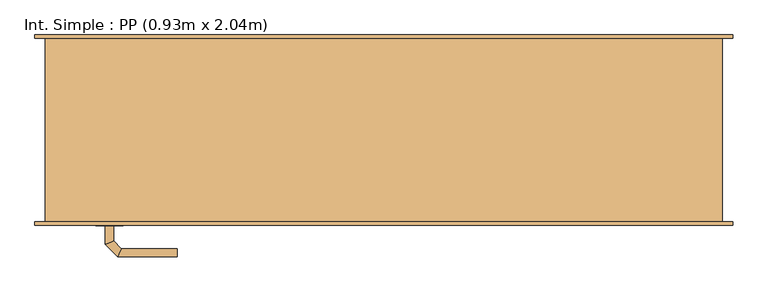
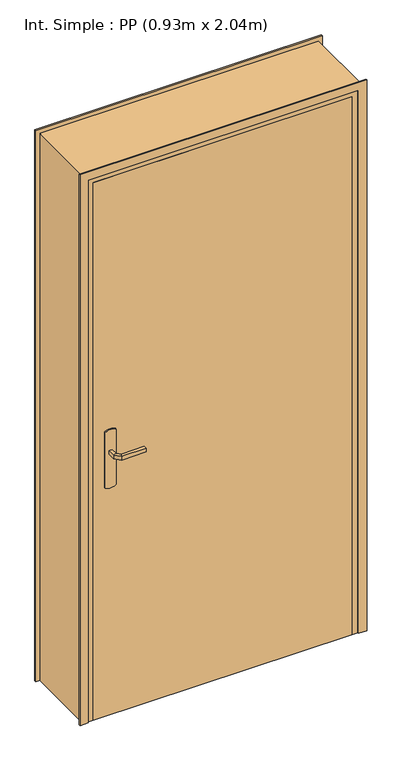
"""IFC4 building model written with IfcOpenShell, lengths in millimetres: door geometry, Int. Simple : PP (0.93m x 2.04m)."""

from ifc_helpers import new_model, si_unit, point, frame, frame_2d, origin, origin_with_axes, place, context, project, spatial, polyline, circle_curve, ellipse_curve, trimmed, segment, composite_curve, outline, extrude, faceted_brep, source, transform, mapped, element, save
from ifc_brep_helpers import plane_surface, cylinder_surface, advanced_brep


def int_simple_pp_0_93m_x_2_04m_1153bdb4(model_context):
    return source(origin(), model_context, "Body", "SolidModel", [
        extrude(outline(composite_curve([segment(trimmed(circle_curve(frame_2d((904.6410162, -440.0)), 40.0), [point((870.0, -460.0))], [point((870.0, -420.0))], False, "CARTESIAN"), True, "CONTINUOUS"), segment(polyline([(870.0, -420.0), (1080.0, -420.0)]), True, "CONTINUOUS"), segment(trimmed(circle_curve(frame_2d((1045.3589838, -440.0)), 40.0), [point((1080.0, -420.0))], [point((1080.0, -460.0))], False, "CARTESIAN"), True, "CONTINUOUS"), segment(polyline([(1080.0, -460.0), (870.0, -460.0)]), True, "CONTINUOUS")], self_intersect=False)), frame((0.0, -140.5, 0.0), z_axis=(0.0, 1.0, 0.0), x_axis=(0.0, 0.0, 1.0)), (0.0, 0.0, 1.0), 5.0),
        extrude(outline(composite_curve([segment(trimmed(circle_curve(frame_2d((1045.3589838, -440.0)), 40.0), [point((1080.0, -420.0))], [point((1080.0, -460.0))], False, "CARTESIAN"), True, "CONTINUOUS"), segment(polyline([(1080.0, -460.0), (870.0, -460.0)]), True, "CONTINUOUS"), segment(trimmed(circle_curve(frame_2d((904.6410162, -440.0)), 40.0), [point((870.0, -460.0))], [point((870.0, -420.0))], False, "CARTESIAN"), True, "CONTINUOUS"), segment(polyline([(870.0, -420.0), (1080.0, -420.0)]), True, "CONTINUOUS")], self_intersect=False)), frame((0.0, -95.5, 0.0), z_axis=(0.0, 1.0, 0.0), x_axis=(0.0, 0.0, 1.0)), (0.0, 0.0, 1.0), 5.0),
        advanced_brep(
        [(-446.0, -140.5, 1007.0), (-434.0, -140.5, 1007.0), (-434.0, -140.5, 993.0), (-446.0, -140.5, 993.0), (-446.0, -168.1509507, 1007.0), (-434.0, -163.180388, 1007.0), (-434.0, -163.180388, 993.0), (-446.0, -168.1509507, 993.0), (-427.62279, -186.5281607, 1007.0), (-422.6522273, -174.5281607, 1007.0), (-422.6522273, -174.5281607, 993.0), (-427.62279, -186.5281607, 993.0), (-339.9813594, -186.5281607, 1007.0), (-339.9813594, -186.5281607, 993.0), (-339.9813594, -174.5281607, 993.0), (-339.9813594, -174.5281607, 1007.0)],
        [
            (0, 1, circle_curve(frame((-440.0, -140.5, 986.9542278), z_axis=(0.0, 1.0, 0.0), x_axis=(1.0, 0.0, 0.0)), 20.9244589)),
            (1, 2),
            (2, 3, circle_curve(frame((-440.0, -140.5, 1013.0457722), z_axis=(0.0, 1.0, 0.0), x_axis=(1.0, 0.0, 0.0)), 20.9244589)),
            (3, 0),
            (0, 4),
            (4, 5, ellipse_curve(frame((-440.0, -165.6656693, 986.9542278), z_axis=(-0.3826834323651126, 0.9238795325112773, 0.0), x_axis=(0.9238795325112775, 0.38268343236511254, 0.0)), 22.6484711, 20.9244589)),
            (5, 1),
            (5, 6),
            (6, 2),
            (6, 7, ellipse_curve(frame((-440.0, -165.6656693, 1013.0457722), z_axis=(-0.3826834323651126, 0.9238795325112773, 0.0), x_axis=(0.9238795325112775, 0.38268343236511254, 0.0)), 22.6484711, 20.9244589)),
            (7, 3),
            (7, 4),
            (4, 8),
            (8, 9, ellipse_curve(frame((-425.1375086, -180.5281607, 986.9542278), z_axis=(-0.9238795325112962, 0.38268343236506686, 0.0), x_axis=(0.3826834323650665, 0.9238795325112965, 0.0)), 22.6484711, 20.9244589)),
            (9, 5),
            (9, 10),
            (10, 6),
            (10, 11, ellipse_curve(frame((-425.1375086, -180.5281607, 1013.0457722), z_axis=(-0.9238795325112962, 0.38268343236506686, 0.0), x_axis=(0.3826834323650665, 0.9238795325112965, 0.0)), 22.6484711, 20.9244589)),
            (11, 7),
            (11, 8),
            (12, 13),
            (13, 14, circle_curve(frame((-339.9813594, -180.5281607, 1013.0457722), z_axis=(1.0, 0.0, 0.0), x_axis=(0.0, 1.0, 0.0)), 20.9244589)),
            (14, 15),
            (15, 12, circle_curve(frame((-339.9813594, -180.5281607, 986.9542278), z_axis=(1.0, 0.0, 0.0), x_axis=(0.0, 1.0, 0.0)), 20.9244589)),
            (8, 12),
            (15, 9),
            (14, 10),
            (13, 11),
        ],
        [
            plane_surface(frame((-449.2195445, -140.5, 1000.0), z_axis=(0.0, 1.0, 0.0), x_axis=(0.0, 0.0, -1.0))),
            cylinder_surface(frame((-440.0, -140.5, 986.9542278), z_axis=(0.0, 1.0, 0.0), x_axis=(1.0, 0.0, 0.0)), 20.9244589),
            plane_surface(frame((-434.0, -140.5, 1007.0), z_axis=(1.0, 0.0, 0.0), x_axis=(0.0, -1.0, 0.0))),
            cylinder_surface(frame((-440.0, -140.5, 1013.0457722), z_axis=(0.0, 1.0, 0.0), x_axis=(1.0, 0.0, 0.0)), 20.9244589),
            plane_surface(frame((-446.0, -140.5, 993.0), z_axis=(-1.0, 0.0, 0.0), x_axis=(0.0, -1.0, 0.0))),
            cylinder_surface(frame((-440.0, -165.6656693, 986.9542278), z_axis=(-0.7071067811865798, 0.7071067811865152, 0.0), x_axis=(0.7071067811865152, 0.7071067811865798, 0.0)), 20.9244589),
            plane_surface(frame((-434.0, -163.180388, 1007.0), z_axis=(0.7071067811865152, 0.7071067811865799, 0.0), x_axis=(0.7071067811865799, -0.7071067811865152, 0.0))),
            cylinder_surface(frame((-440.0, -165.6656693, 1013.0457722), z_axis=(-0.7071067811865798, 0.7071067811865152, 0.0), x_axis=(0.7071067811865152, 0.7071067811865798, 0.0)), 20.9244589),
            plane_surface(frame((-446.0, -168.1509507, 993.0), z_axis=(-0.7071067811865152, -0.7071067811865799, 0.0), x_axis=(0.7071067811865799, -0.7071067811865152, 0.0))),
            plane_surface(frame((-339.9813594, -180.5281607, 990.7804555), z_axis=(1.0, 0.0, 0.0), x_axis=(0.0, 1.0, 0.0))),
            cylinder_surface(frame((-425.1375086, -180.5281607, 986.9542278), z_axis=(-1.0, 0.0, 0.0), x_axis=(0.0, 1.0, 0.0)), 20.9244589),
            plane_surface(frame((-422.6522273, -174.5281607, 1007.0), z_axis=(0.0, 1.0, 0.0), x_axis=(1.0, 0.0, 0.0))),
            cylinder_surface(frame((-425.1375086, -180.5281607, 1013.0457722), z_axis=(-1.0, 0.0, 0.0), x_axis=(0.0, 1.0, 0.0)), 20.9244589),
            plane_surface(frame((-427.62279, -186.5281607, 993.0), z_axis=(0.0, -1.0, 0.0), x_axis=(1.0, 0.0, 0.0))),
        ],
        [
            (0, [[1, 2, 3, 4]]),
            (1, [[-1, 5, 6, 7]]),
            (2, [[-2, -7, 8, 9]]),
            (3, [[-3, -9, 10, 11]]),
            (4, [[-4, -11, 12, -5]]),
            (5, [[-6, 13, 14, 15]]),
            (6, [[-8, -15, 16, 17]]),
            (7, [[-10, -17, 18, 19]]),
            (8, [[-12, -19, 20, -13]]),
            (9, [[21, 22, 23, 24]]),
            (10, [[-14, 25, -24, 26]]),
            (11, [[-16, -26, -23, 27]]),
            (12, [[-18, -27, -22, 28]]),
            (13, [[-20, -28, -21, -25]]),
        ],
    ),
        advanced_brep(
        [(-434.0, -90.5, 993.0), (-434.0, -90.5, 1007.0), (-446.0, -90.5, 1007.0), (-446.0, -90.5, 993.0), (-434.0, -68.0147955, 993.0), (-434.0, -68.0147955, 1007.0), (-446.0, -63.0442327, 1007.0), (-446.0, -63.0442327, 993.0), (-422.5147186, -56.5295141, 993.0), (-422.5147186, -56.5295141, 1007.0), (-427.4852814, -44.5295141, 1007.0), (-427.4852814, -44.5295141, 993.0), (-339.9542163, -56.5295141, 993.0), (-339.9542163, -44.5295141, 993.0), (-339.9542163, -44.5295141, 1007.0), (-339.9542163, -56.5295141, 1007.0)],
        [
            (0, 1),
            (1, 2, circle_curve(frame((-440.0, -90.5, 986.9542278), z_axis=(0.0, -1.0, 0.0), x_axis=(-1.0, 0.0, 0.0)), 20.9244589)),
            (2, 3),
            (3, 0, circle_curve(frame((-440.0, -90.5, 1013.0457722), z_axis=(0.0, -1.0, 0.0), x_axis=(-1.0, 0.0, 0.0)), 20.9244589)),
            (0, 4),
            (4, 5),
            (5, 1),
            (5, 6, ellipse_curve(frame((-440.0, -65.5295141, 986.9542278), z_axis=(-0.3826834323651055, -0.9238795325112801, 0.0), x_axis=(0.9238795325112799, -0.3826834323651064, 0.0)), 22.6484711, 20.9244589)),
            (6, 2),
            (6, 7),
            (7, 3),
            (7, 4, ellipse_curve(frame((-440.0, -65.5295141, 1013.0457722), z_axis=(-0.3826834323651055, -0.9238795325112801, 0.0), x_axis=(0.9238795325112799, -0.3826834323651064, 0.0)), 22.6484711, 20.9244589)),
            (4, 8),
            (8, 9),
            (9, 5),
            (9, 10, ellipse_curve(frame((-425.0, -50.5295141, 986.9542278), z_axis=(-0.9238795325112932, -0.382683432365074, 0.0), x_axis=(0.3826834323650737, -0.9238795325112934, 0.0)), 22.6484711, 20.9244589)),
            (10, 6),
            (10, 11),
            (11, 7),
            (11, 8, ellipse_curve(frame((-425.0, -50.5295141, 1013.0457722), z_axis=(-0.9238795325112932, -0.382683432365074, 0.0), x_axis=(0.3826834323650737, -0.9238795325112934, 0.0)), 22.6484711, 20.9244589)),
            (12, 13, circle_curve(frame((-339.9542163, -50.5295141, 1013.0457722), z_axis=(1.0, 0.0, 0.0), x_axis=(0.0, 1.0, 0.0)), 20.9244589)),
            (13, 14),
            (14, 15, circle_curve(frame((-339.9542163, -50.5295141, 986.9542278), z_axis=(1.0, 0.0, 0.0), x_axis=(0.0, 1.0, 0.0)), 20.9244589)),
            (15, 12),
            (8, 12),
            (15, 9),
            (14, 10),
            (13, 11),
        ],
        [
            plane_surface(frame((-449.2195445, -90.5, 1000.0), z_axis=(0.0, -1.0, 0.0), x_axis=(0.0, 0.0, 1.0))),
            plane_surface(frame((-434.0, -90.5, 993.0), z_axis=(1.0, 0.0, 0.0), x_axis=(0.0, 1.0, 0.0))),
            cylinder_surface(frame((-440.0, -90.5, 986.9542278), z_axis=(0.0, -1.0, 0.0), x_axis=(-1.0, 0.0, 0.0)), 20.9244589),
            plane_surface(frame((-446.0, -90.5, 1007.0), z_axis=(-1.0, 0.0, 0.0), x_axis=(0.0, 1.0, 0.0))),
            cylinder_surface(frame((-440.0, -90.5, 1013.0457722), z_axis=(0.0, -1.0, 0.0), x_axis=(-1.0, 0.0, 0.0)), 20.9244589),
            plane_surface(frame((-434.0, -68.0147955, 993.0), z_axis=(0.7071067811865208, -0.7071067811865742, 0.0), x_axis=(0.7071067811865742, 0.7071067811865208, 0.0))),
            cylinder_surface(frame((-440.0, -65.5295141, 986.9542278), z_axis=(-0.7071067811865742, -0.7071067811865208, 0.0), x_axis=(-0.7071067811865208, 0.7071067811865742, 0.0)), 20.9244589),
            plane_surface(frame((-446.0, -63.0442327, 1007.0), z_axis=(-0.7071067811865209, 0.7071067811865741, 0.0), x_axis=(0.7071067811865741, 0.7071067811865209, 0.0))),
            cylinder_surface(frame((-440.0, -65.5295141, 1013.0457722), z_axis=(-0.7071067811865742, -0.7071067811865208, 0.0), x_axis=(-0.7071067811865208, 0.7071067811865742, 0.0)), 20.9244589),
            plane_surface(frame((-339.9542163, -50.5295141, 990.7804555), z_axis=(1.0, 0.0, 0.0), x_axis=(0.0, 1.0, 0.0))),
            plane_surface(frame((-422.5147186, -56.5295141, 993.0), z_axis=(0.0, -1.0, 0.0), x_axis=(1.0, 0.0, 0.0))),
            cylinder_surface(frame((-425.0, -50.5295141, 986.9542278), z_axis=(-1.0, 0.0, 0.0), x_axis=(0.0, 1.0, 0.0)), 20.9244589),
            plane_surface(frame((-427.4852814, -44.5295141, 1007.0), z_axis=(0.0, 1.0, 0.0), x_axis=(1.0, 0.0, 0.0))),
            cylinder_surface(frame((-425.0, -50.5295141, 1013.0457722), z_axis=(-1.0, 0.0, 0.0), x_axis=(0.0, 1.0, 0.0)), 20.9244589),
        ],
        [
            (0, [[1, 2, 3, 4]]),
            (1, [[-1, 5, 6, 7]]),
            (2, [[-2, -7, 8, 9]]),
            (3, [[-3, -9, 10, 11]]),
            (4, [[-4, -11, 12, -5]]),
            (5, [[-6, 13, 14, 15]]),
            (6, [[-8, -15, 16, 17]]),
            (7, [[-10, -17, 18, 19]]),
            (8, [[-12, -19, 20, -13]]),
            (9, [[21, 22, 23, 24]]),
            (10, [[-14, 25, -24, 26]]),
            (11, [[-16, -26, -23, 27]]),
            (12, [[-18, -27, -22, 28]]),
            (13, [[-20, -28, -21, -25]]),
        ],
    ),
        extrude(outline(polyline([(-500.0, -95.5), (430.0, -95.5), (430.0, -135.5), (-500.0, -135.5), (-500.0, -95.5)])), origin_with_axes(), (0.0, 0.0, 1.0), 2040.0),
        faceted_brep([(-535.0, -135.5, 0.0), (-535.0, 135.5, 0.0), (-485.0, 135.5, 0.0), (-485.0, -95.5, 0.0), (-500.0, -95.5, 0.0), (-500.0, -135.5, 0.0), (-535.0, -135.5, 2075.0), (-535.0, 135.5, 2075.0), (465.0, 135.5, 2075.0), (465.0, 135.5, 0.0), (415.0, 135.5, 0.0), (415.0, 135.5, 2025.0), (-485.0, 135.5, 2025.0), (-485.0, -95.5, 2025.0), (415.0, -95.5, 2025.0), (415.0, -95.5, 0.0), (430.0, -95.5, 0.0), (430.0, -95.5, 2040.0), (-500.0, -95.5, 2040.0), (-500.0, -135.5, 2040.0), (430.0, -135.5, 2040.0), (430.0, -135.5, 0.0), (465.0, -135.5, 0.0), (465.0, -135.5, 2075.0)], [[[0, 1, 2, 3, 4, 5]], [[1, 0, 6, 7]], [[2, 1, 7, 8, 9, 10, 11, 12]], [[3, 2, 12, 13]], [[4, 3, 13, 14, 15, 16, 17, 18]], [[5, 4, 18, 19]], [[0, 5, 19, 20, 21, 22, 23, 6]], [[8, 23, 22, 9]], [[22, 21, 16, 15, 10, 9]], [[14, 11, 10, 15]], [[20, 17, 16, 21]], [[7, 6, 23, 8]], [[13, 12, 11, 14]], [[19, 18, 17, 20]]]),
        extrude(outline(polyline([(0.0, -550.0), (0.0, -520.0), (2060.0, -520.0), (2060.0, 450.0), (0.0, 450.0), (0.0, 480.0), (2090.0, 480.0), (2090.0, -550.0), (0.0, -550.0)])), frame((0.0, -140.5, 0.0), z_axis=(0.0, 1.0, 0.0), x_axis=(0.0, 0.0, 1.0)), (0.0, 0.0, 1.0), 5.0),
        extrude(outline(polyline([(0.0, -550.0), (0.0, -520.0), (2060.0, -520.0), (2060.0, 450.0), (0.0, 450.0), (0.0, 480.0), (2090.0, 480.0), (2090.0, -550.0), (0.0, -550.0)])), frame((0.0, 135.5, 0.0), z_axis=(0.0, 1.0, 0.0), x_axis=(0.0, 0.0, 1.0)), (0.0, 0.0, 1.0), 5.0),
    ])


if __name__ == "__main__":
    model = new_model("IFC4")
    model_context = context("Model", 3, world=origin())
    ifc_project = project(units=[si_unit("LENGTHUNIT", "METRE", prefix="MILLI")], contexts=[model_context])
    site = spatial("IfcSite", under=ifc_project)
    building = spatial("IfcBuilding", under=site)
    placement = place(None, origin())
    int_simple_pp_0_93m_x_2_04m_shape = int_simple_pp_0_93m_x_2_04m_1153bdb4(model_context)
    element("IfcDoor", 1, ObjectType="Int. Simple : PP (0.93m x 2.04m)", at=placement, inside=building, context=model_context, shape_type="MappedRepresentation", body=[
        mapped(int_simple_pp_0_93m_x_2_04m_shape, transform((0.0, 0.0, 0.0), x_axis=(1.0, 0.0, 0.0), y_axis=(0.0, 1.0, 0.0), z_axis=(0.0, 0.0, 1.0))),
    ])
    save(model, "model.ifc")
